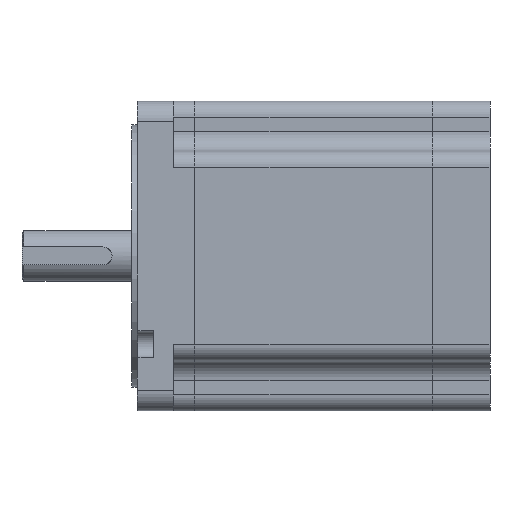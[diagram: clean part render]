
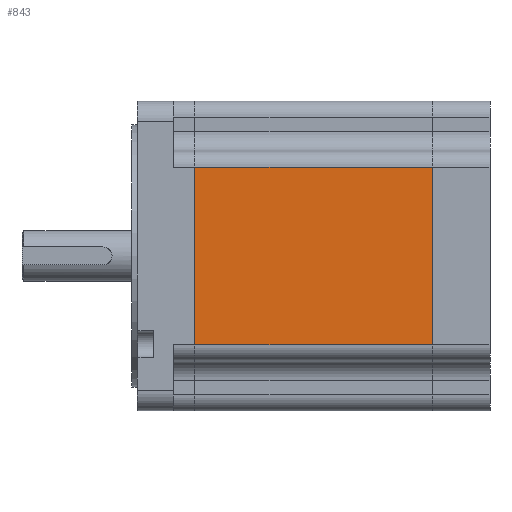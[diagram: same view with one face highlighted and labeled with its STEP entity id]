
A CAD part, left-side view. The second image highlights one B-rep face of the part: STEP entity #843.
In plain terms, the highlighted planar face has unit normal (-1, 0, 0).
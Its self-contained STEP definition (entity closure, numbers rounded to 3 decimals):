
#319 = DIRECTION ( 'NONE',  ( 0., 0., 1. ) ) ;
#703 = EDGE_CURVE ( 'NONE', #6671, #4050, #5415, .T. ) ;
#839 = VERTEX_POINT ( 'NONE', #1208 ) ;
#843 = ADVANCED_FACE ( 'NONE', ( #5330 ), #4499, .F. ) ;
#1208 = CARTESIAN_POINT ( 'NONE',  ( -43., -71.992, 24.65 ) ) ;
#1803 = EDGE_LOOP ( 'NONE', ( #3677, #3008, #7001, #5910 ) ) ;
#2044 = VERTEX_POINT ( 'NONE', #3308 ) ;
#2293 = LINE ( 'NONE', #5550, #4780 ) ;
#2294 = CARTESIAN_POINT ( 'NONE',  ( -43., -6.008, -24.65 ) ) ;
#2524 = CARTESIAN_POINT ( 'NONE',  ( -43., -88., -24.65 ) ) ;
#2542 = EDGE_CURVE ( 'NONE', #4050, #2044, #3696, .T. ) ;
#2711 = CARTESIAN_POINT ( 'NONE',  ( -43., -71.992, -24.65 ) ) ;
#3008 = ORIENTED_EDGE ( 'NONE', *, *, #4931, .T. ) ;
#3308 = CARTESIAN_POINT ( 'NONE',  ( -43., -6.008, 24.65 ) ) ;
#3677 = ORIENTED_EDGE ( 'NONE', *, *, #4018, .F. ) ;
#3696 = LINE ( 'NONE', #6365, #4456 ) ;
#4018 = EDGE_CURVE ( 'NONE', #839, #6671, #2293, .T. ) ;
#4050 = VERTEX_POINT ( 'NONE', #2294 ) ;
#4445 = DIRECTION ( 'NONE',  ( 0., 0., -1. ) ) ;
#4456 = VECTOR ( 'NONE', #319, 1000. ) ;
#4499 = PLANE ( 'NONE',  #5140 ) ;
#4780 = VECTOR ( 'NONE', #4445, 1000. ) ;
#4931 = EDGE_CURVE ( 'NONE', #839, #2044, #5597, .T. ) ;
#5054 = CARTESIAN_POINT ( 'NONE',  ( -43., 10., 37.3 ) ) ;
#5140 = AXIS2_PLACEMENT_3D ( 'NONE', #5054, #7034, #5603 ) ;
#5184 = VECTOR ( 'NONE', #5860, 1000. ) ;
#5330 = FACE_OUTER_BOUND ( 'NONE', #1803, .T. ) ;
#5415 = LINE ( 'NONE', #2524, #5582 ) ;
#5550 = CARTESIAN_POINT ( 'NONE',  ( -43., -71.992, 37.3 ) ) ;
#5582 = VECTOR ( 'NONE', #6915, 1000. ) ;
#5597 = LINE ( 'NONE', #6878, #5184 ) ;
#5603 = DIRECTION ( 'NONE',  ( 0., 0., -1. ) ) ;
#5860 = DIRECTION ( 'NONE',  ( 0., 1., 0. ) ) ;
#5910 = ORIENTED_EDGE ( 'NONE', *, *, #703, .F. ) ;
#6365 = CARTESIAN_POINT ( 'NONE',  ( -43., -6.008, 37.3 ) ) ;
#6671 = VERTEX_POINT ( 'NONE', #2711 ) ;
#6878 = CARTESIAN_POINT ( 'NONE',  ( -43., -88., 24.65 ) ) ;
#6915 = DIRECTION ( 'NONE',  ( 0., 1., 0. ) ) ;
#7001 = ORIENTED_EDGE ( 'NONE', *, *, #2542, .F. ) ;
#7034 = DIRECTION ( 'NONE',  ( 1., 0., 0. ) ) ;
